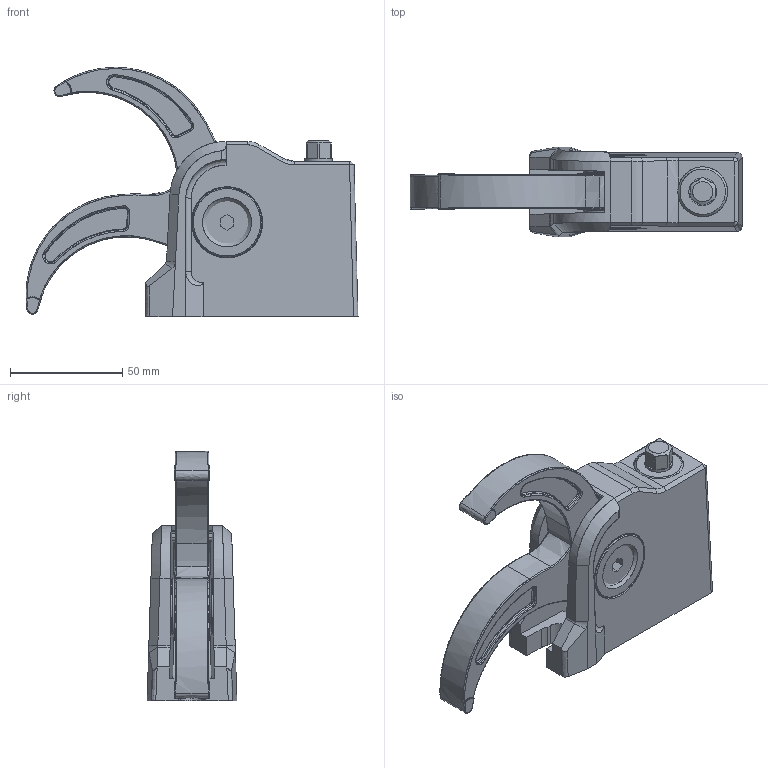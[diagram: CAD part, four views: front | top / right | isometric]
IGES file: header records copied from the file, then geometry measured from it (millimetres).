
Start section: ZWSOFT
Global section: file name: BSP-C10-6.igs; native system: ZW3D; preprocessor: 1.0; author: ZW3D; organization: ZWSOFT; date: 120704.163021; units: millimetre
Bounding box: 147.83 x 40 x 111.02 mm (x, y, z)
Surface area: 73877.2 mm2 (no closed solid volume)
Topology: 0 solids, 0 shells, 422 faces, 2174 edges, 2061 vertices
Faces by surface type: bspline 422
